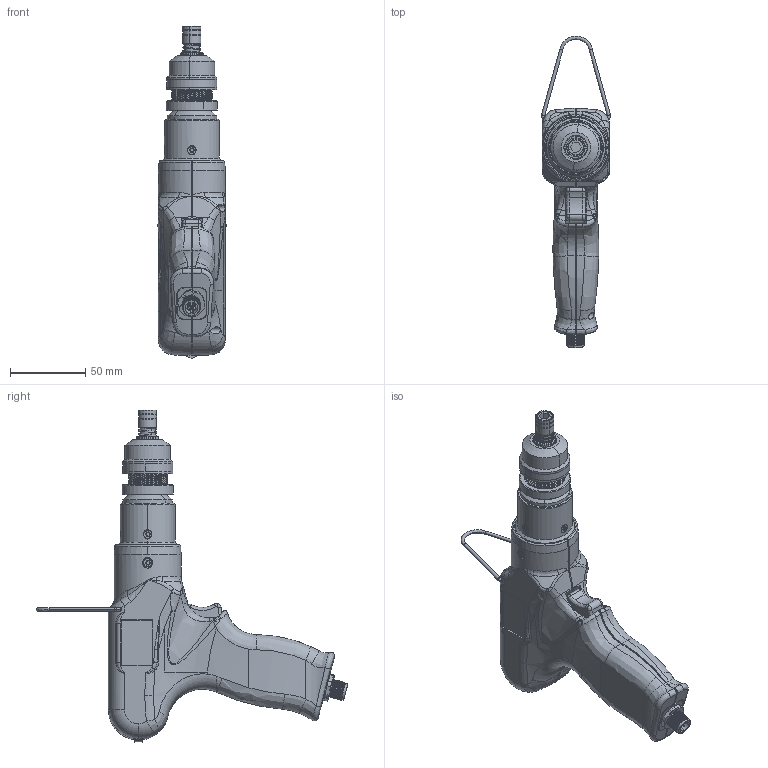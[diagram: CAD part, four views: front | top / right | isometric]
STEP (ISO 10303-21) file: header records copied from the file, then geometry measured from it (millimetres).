
FILE_DESCRIPTION (( 'STEP AP214' ), '1' );
FILE_NAME ('RAF38PP_FR.STEP', '2015-07-14T14:54:35', ( '' ), ( '' ), 'SwSTEP 2.0', 'SolidWorks 2015', '' );
FILE_SCHEMA (( 'AUTOMOTIVE_DESIGN' ));
Length unit declared in the file: millimetre
Products named in the file (2): RAF38PP_FR
Bounding box: 45.94 x 207.04 x 220.49 mm (x, y, z)
Volume: 122665 mm3; surface area: 121451 mm2
Topology: 25 solids, 25 shells, 2470 faces, 6630 edges, 4234 vertices
Faces by surface type: cylinder 922, bspline 744, plane 472, cone 272, torus 60
Entity records: 279444 total; most frequent: CARTESIAN_POINT 199742, ORIENTED_EDGE 13206, DIRECTION 7713, EDGE_CURVE 6603, VERTEX_POINT 4234, AXIS2_PLACEMENT_3D 2872, B_SPLINE_CURVE_WITH_KNOTS 2789, EDGE_LOOP 2597
